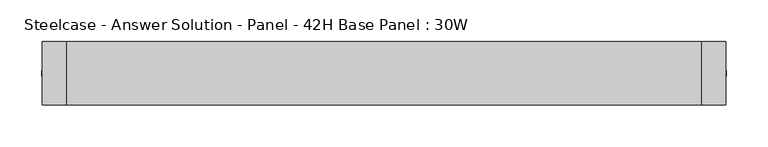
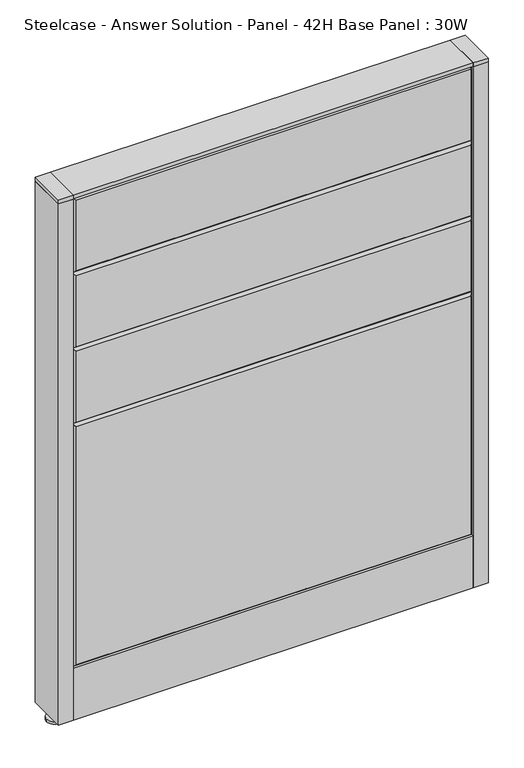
"""IFC4 building model written with IfcOpenShell, lengths in millimetres: furniture geometry, Steelcase - Answer Solution - Panel - 42H Base Panel : 30W."""

from ifc_helpers import new_model, si_unit, point, frame, frame_2d, origin, place, context, project, spatial, polyline, circle_curve, trimmed, segment, composite_curve, outline, extrude, faceted_brep, source, transform, mapped, element, save


def steelcase_answer_solution_panel_42h_base_panel_30w_3b6d6ffe(model_context):
    return source(origin(), model_context, "Body", "SolidModel", [
        extrude(outline(composite_curve([segment(trimmed(circle_curve(frame_2d((395.224, 0.0039657)), 5.08), [point((400.304, 0.0039657))], [point((390.144, 0.0039657))], False, "CARTESIAN"), True, "CONTINUOUS"), segment(trimmed(circle_curve(frame_2d((395.224, 0.0039657)), 5.08), [point((390.144, 0.0039657))], [point((400.304, 0.0039657))], False, "CARTESIAN"), True, "CONTINUOUS")], self_intersect=False)), frame((0.0, 0.0, 5.0799671), z_axis=(0.0, 0.0, 1.0), x_axis=(1.0, 0.0, 0.0)), (0.0, 0.0, 1.0), 10.414),
        extrude(outline(composite_curve([segment(trimmed(circle_curve(frame_2d((395.224, 0.0039657)), 15.24), [point((410.464, 0.0039657))], [point((379.984, 0.0039657))], False, "CARTESIAN"), True, "CONTINUOUS"), segment(trimmed(circle_curve(frame_2d((395.224, 0.0039657)), 15.24), [point((379.984, 0.0039657))], [point((410.464, 0.0039657))], False, "CARTESIAN"), True, "CONTINUOUS")], self_intersect=False)), frame((0.0, 0.0, -3.29e-05), z_axis=(0.0, 0.0, 1.0), x_axis=(1.0, 0.0, 0.0)), (0.0, 0.0, 1.0), 5.08),
        extrude(outline(polyline([(409.575, 38.1039851), (409.575, -38.0960149), (381.0, -38.0960149), (381.0, 38.1039851), (409.575, 38.1039851)])), frame((0.0, 0.0, 1065.8348), z_axis=(0.0, 0.0, 1.0), x_axis=(1.0, 0.0, 0.0)), (0.0, 0.0, 1.0), 7.3151671),
        extrude(outline(polyline([(409.575, 38.1039851), (409.575, -38.0960149), (381.0, -38.0960149), (381.0, 38.1039851), (409.575, 38.1039851)])), frame((0.0, 0.0, 15.4939671), z_axis=(0.0, 0.0, 1.0), x_axis=(1.0, 0.0, 0.0)), (0.0, 0.0, 1.0), 1050.3408329),
        extrude(outline(composite_curve([segment(trimmed(circle_curve(frame_2d((-395.224, 0.0039657)), 5.08), [point((-400.304, 0.0039657))], [point((-390.144, 0.0039657))], False, "CARTESIAN"), True, "CONTINUOUS"), segment(trimmed(circle_curve(frame_2d((-395.224, 0.0039657)), 5.08), [point((-390.144, 0.0039657))], [point((-400.304, 0.0039657))], False, "CARTESIAN"), True, "CONTINUOUS")], self_intersect=False)), frame((0.0, 0.0, 5.0799671), z_axis=(0.0, 0.0, 1.0), x_axis=(1.0, 0.0, 0.0)), (0.0, 0.0, 1.0), 10.414),
        extrude(outline(composite_curve([segment(trimmed(circle_curve(frame_2d((-395.224, 0.0039657)), 15.24), [point((-410.464, 0.0039657))], [point((-379.984, 0.0039657))], False, "CARTESIAN"), True, "CONTINUOUS"), segment(trimmed(circle_curve(frame_2d((-395.224, 0.0039657)), 15.24), [point((-379.984, 0.0039657))], [point((-410.464, 0.0039657))], False, "CARTESIAN"), True, "CONTINUOUS")], self_intersect=False)), frame((0.0, 0.0, -3.29e-05), z_axis=(0.0, 0.0, 1.0), x_axis=(1.0, 0.0, 0.0)), (0.0, 0.0, 1.0), 5.08),
        extrude(outline(polyline([(-409.575, 38.1039851), (-381.0, 38.1039851), (-381.0, -38.0960149), (-409.575, -38.0960149), (-409.575, 38.1039851)])), frame((0.0, 0.0, 1065.8348), z_axis=(0.0, 0.0, 1.0), x_axis=(1.0, 0.0, 0.0)), (0.0, 0.0, 1.0), 7.3151671),
        extrude(outline(polyline([(-409.575, 38.1039851), (-381.0, 38.1039851), (-381.0, -38.0960149), (-409.575, -38.0960149), (-409.575, 38.1039851)])), frame((0.0, 0.0, 15.4939671), z_axis=(0.0, 0.0, 1.0), x_axis=(1.0, 0.0, 0.0)), (0.0, 0.0, 1.0), 1050.3408329),
        faceted_brep([(-376.174, 38.1635011, 1061.974), (376.174, 38.1635011, 1061.974), (376.174, 38.1635011, 919.226), (-376.174, 38.1635011, 919.226), (-381.0, 33.3375011, 1066.8), (-381.0, 33.3375011, 914.4), (381.0, 33.3375011, 914.4), (381.0, 33.3375011, 1066.8)], [[[0, 1, 2, 3]], [[4, 5, 6, 7]], [[4, 7, 1, 0]], [[7, 6, 2, 1]], [[6, 5, 3, 2]], [[5, 4, 0, 3]]]),
        faceted_brep([(-376.174, 38.1635011, 909.574), (376.174, 38.1635011, 909.574), (376.174, 38.1635011, 766.826), (-376.174, 38.1635011, 766.826), (-381.0, 33.3375011, 914.4), (-381.0, 33.3375011, 762.0), (381.0, 33.3375011, 762.0), (381.0, 33.3375011, 914.4)], [[[0, 1, 2, 3]], [[4, 5, 6, 7]], [[4, 7, 1, 0]], [[7, 6, 2, 1]], [[6, 5, 3, 2]], [[5, 4, 0, 3]]]),
        faceted_brep([(-376.174, 38.1635011, 757.174), (376.174, 38.1635011, 757.174), (376.174, 38.1635011, 614.426), (-376.174, 38.1635011, 614.426), (-381.0, 33.3375011, 762.0), (-381.0, 33.3375011, 609.6), (381.0, 33.3375011, 609.6), (381.0, 33.3375011, 762.0)], [[[0, 1, 2, 3]], [[4, 5, 6, 7]], [[4, 7, 1, 0]], [[7, 6, 2, 1]], [[6, 5, 3, 2]], [[5, 4, 0, 3]]]),
        faceted_brep([(-376.174, 38.1635011, 604.774), (376.174, 38.1635011, 604.774), (376.174, 38.1635011, 125.476), (-376.174, 38.1635011, 125.476), (-381.0, 33.3375011, 609.6), (-381.0, 33.3375011, 120.65), (381.0, 33.3375011, 120.65), (381.0, 33.3375011, 609.6)], [[[0, 1, 2, 3]], [[4, 5, 6, 7]], [[4, 7, 1, 0]], [[7, 6, 2, 1]], [[6, 5, 3, 2]], [[5, 4, 0, 3]]]),
        faceted_brep([(376.174, -38.1635011, 1061.974), (-376.174, -38.1635011, 1061.974), (-376.174, -38.1635011, 919.226), (376.174, -38.1635011, 919.226), (381.0, -33.3375011, 1066.8), (381.0, -33.3375011, 914.4), (-381.0, -33.3375011, 914.4), (-381.0, -33.3375011, 1066.8)], [[[0, 1, 2, 3]], [[4, 5, 6, 7]], [[4, 7, 1, 0]], [[7, 6, 2, 1]], [[6, 5, 3, 2]], [[5, 4, 0, 3]]]),
        faceted_brep([(376.174, -38.1635011, 909.574), (-376.174, -38.1635011, 909.574), (-376.174, -38.1635011, 766.826), (376.174, -38.1635011, 766.826), (381.0, -33.3375011, 914.4), (381.0, -33.3375011, 762.0), (-381.0, -33.3375011, 762.0), (-381.0, -33.3375011, 914.4)], [[[0, 1, 2, 3]], [[4, 5, 6, 7]], [[4, 7, 1, 0]], [[7, 6, 2, 1]], [[6, 5, 3, 2]], [[5, 4, 0, 3]]]),
        faceted_brep([(376.174, -38.1635011, 757.174), (-376.174, -38.1635011, 757.174), (-376.174, -38.1635011, 614.426), (376.174, -38.1635011, 614.426), (381.0, -33.3375011, 762.0), (381.0, -33.3375011, 609.6), (-381.0, -33.3375011, 609.6), (-381.0, -33.3375011, 762.0)], [[[0, 1, 2, 3]], [[4, 5, 6, 7]], [[4, 7, 1, 0]], [[7, 6, 2, 1]], [[6, 5, 3, 2]], [[5, 4, 0, 3]]]),
        faceted_brep([(376.174, -38.1635011, 604.774), (-376.174, -38.1635011, 604.774), (-376.174, -38.1635011, 125.476), (376.174, -38.1635011, 125.476), (381.0, -33.3375011, 609.6), (381.0, -33.3375011, 120.65), (-381.0, -33.3375011, 120.65), (-381.0, -33.3375011, 609.6)], [[[0, 1, 2, 3]], [[4, 5, 6, 7]], [[4, 7, 1, 0]], [[7, 6, 2, 1]], [[6, 5, 3, 2]], [[5, 4, 0, 3]]]),
        extrude(outline(polyline([(381.0, 38.1000194), (381.0, -38.1000194), (-381.0, -38.1000194), (-381.0, 38.1000194), (381.0, 38.1000194)])), frame((0.0, 0.0, 1066.8), z_axis=(0.0, 0.0, 1.0), x_axis=(1.0, 0.0, 0.0)), (0.0, 0.0, 1.0), 6.35),
        extrude(outline(polyline([(25.4000011, 119.8575157), (25.4000011, 120.65), (38.1000194, 120.65), (38.1000194, 15.494), (37.3075215, 15.494), (37.3075215, 119.8575157), (25.4000011, 119.8575157)])), frame((-381.0, 0.0, 0.0), z_axis=(1.0, 0.0, 0.0), x_axis=(0.0, 1.0, 0.0)), (0.0, 0.0, 1.0), 762.0),
        extrude(outline(polyline([(-25.4000011, 119.8575157), (-37.3075215, 119.8575157), (-37.3075215, 15.494), (-38.1000194, 15.494), (-38.1000194, 120.65), (-25.4000011, 120.65), (-25.4000011, 119.8575157)])), frame((-381.0, 0.0, 0.0), z_axis=(1.0, 0.0, 0.0), x_axis=(0.0, 1.0, 0.0)), (0.0, 0.0, 1.0), 762.0),
    ])


if __name__ == "__main__":
    model = new_model("IFC4")
    model_context = context("Model", 3, world=origin())
    ifc_project = project(units=[si_unit("LENGTHUNIT", "METRE", prefix="MILLI")], contexts=[model_context])
    site = spatial("IfcSite", under=ifc_project)
    building = spatial("IfcBuilding", under=site)
    placement = place(None, origin())
    steelcase_answer_solution_panel_42h_base_panel_30w_shape = steelcase_answer_solution_panel_42h_base_panel_30w_3b6d6ffe(model_context)
    element("IfcFurniture", 1, ObjectType="Steelcase - Answer Solution - Panel - 42H Base Panel : 30W", at=placement, inside=building, context=model_context, shape_type="MappedRepresentation", body=[
        mapped(steelcase_answer_solution_panel_42h_base_panel_30w_shape, transform((0.0, 0.0, 0.0), x_axis=(1.0, 0.0, 0.0), y_axis=(0.0, 1.0, 0.0), z_axis=(0.0, 0.0, 1.0))),
    ])
    save(model, "model.ifc")
